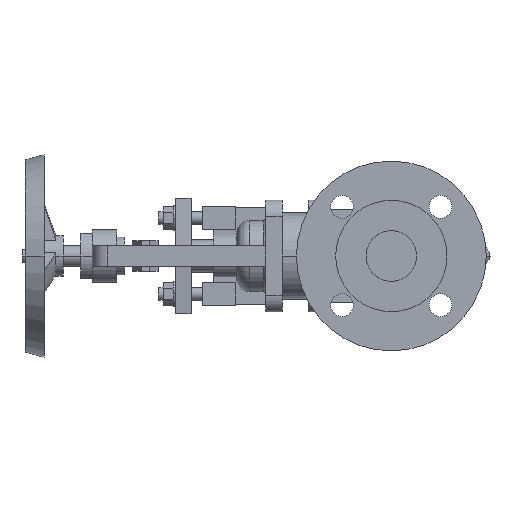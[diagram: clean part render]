
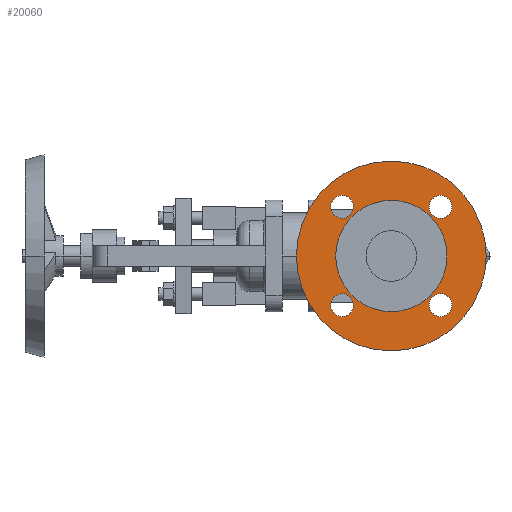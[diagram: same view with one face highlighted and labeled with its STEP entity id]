
A CAD part, left-side view. The second image highlights one B-rep face of the part: STEP entity #20060.
In plain terms, the highlighted planar face has unit normal (-1, 0, 0).
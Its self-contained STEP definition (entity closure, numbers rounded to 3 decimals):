
#3050=CARTESIAN_POINT('',(3.,-44.,0.));
#3060=VERTEX_POINT('',#3050);
#3090=CARTESIAN_POINT('',(3.,0.,0.));
#3100=DIRECTION('',(-1.,0.,0.));
#3110=DIRECTION('',(0.,1.,0.));
#3120=AXIS2_PLACEMENT_3D('',#3090,#3100,#3110);
#3130=CIRCLE('',#3120,44.);
#3140=CARTESIAN_POINT('',(3.,44.,0.));
#3150=VERTEX_POINT('',#3140);
#3160=EDGE_CURVE('',#3150,#3060,#3130,.T.);
#4560=CARTESIAN_POINT('',(3.,0.,75.));
#4570=VERTEX_POINT('',#4560);
#4730=CARTESIAN_POINT('',(3.,0.,-75.));
#4740=VERTEX_POINT('',#4730);
#4770=CARTESIAN_POINT('',(3.,0.,0.));
#4780=DIRECTION('',(1.,0.,0.));
#4790=DIRECTION('',(0.,0.,-1.));
#4800=AXIS2_PLACEMENT_3D('',#4770,#4780,#4790);
#4810=CIRCLE('',#4800,75.);
#4820=EDGE_CURVE('',#4570,#4740,#4810,.T.);
#5050=CARTESIAN_POINT('',(3.,38.891,-47.891));
#5060=VERTEX_POINT('',#5050);
#5090=CARTESIAN_POINT('',(3.,38.891,-38.891));
#5100=DIRECTION('',(1.,0.,0.));
#5110=DIRECTION('',(0.,0.,-1.));
#5120=AXIS2_PLACEMENT_3D('',#5090,#5100,#5110);
#5130=CIRCLE('',#5120,9.);
#5140=CARTESIAN_POINT('',(3.,38.891,-29.891));
#5150=VERTEX_POINT('',#5140);
#5160=EDGE_CURVE('',#5060,#5150,#5130,.T.);
#5540=CARTESIAN_POINT('',(3.,-38.891,-47.891));
#5550=VERTEX_POINT('',#5540);
#5580=CARTESIAN_POINT('',(3.,-38.891,-38.891));
#5590=DIRECTION('',(1.,0.,0.));
#5600=DIRECTION('',(0.,0.,-1.));
#5610=AXIS2_PLACEMENT_3D('',#5580,#5590,#5600);
#5620=CIRCLE('',#5610,9.);
#5630=CARTESIAN_POINT('',(3.,-38.891,-29.891));
#5640=VERTEX_POINT('',#5630);
#5650=EDGE_CURVE('',#5550,#5640,#5620,.T.);
#6030=CARTESIAN_POINT('',(3.,38.891,47.891));
#6040=VERTEX_POINT('',#6030);
#6200=CARTESIAN_POINT('',(3.,38.891,29.891));
#6210=VERTEX_POINT('',#6200);
#6240=CARTESIAN_POINT('',(3.,38.891,38.891));
#6250=DIRECTION('',(1.,0.,0.));
#6260=DIRECTION('',(0.,0.,-1.));
#6270=AXIS2_PLACEMENT_3D('',#6240,#6250,#6260);
#6280=CIRCLE('',#6270,9.);
#6290=EDGE_CURVE('',#6210,#6040,#6280,.T.);
#6520=CARTESIAN_POINT('',(3.,-38.891,29.891));
#6530=VERTEX_POINT('',#6520);
#6560=CARTESIAN_POINT('',(3.,-38.891,38.891));
#6570=DIRECTION('',(1.,0.,0.));
#6580=DIRECTION('',(0.,0.,-1.));
#6590=AXIS2_PLACEMENT_3D('',#6560,#6570,#6580);
#6600=CIRCLE('',#6590,9.);
#6610=CARTESIAN_POINT('',(3.,-38.891,47.891));
#6620=VERTEX_POINT('',#6610);
#6630=EDGE_CURVE('',#6530,#6620,#6600,.T.);
#19710=CARTESIAN_POINT('',(3.,0.,0.));
#19720=DIRECTION('',(1.,0.,0.));
#19730=DIRECTION('',(0.,0.,-1.));
#19740=AXIS2_PLACEMENT_3D('',#19710,#19720,#19730);
#19750=PLANE('',#19740);
#19760=EDGE_CURVE('',#6620,#6530,#6600,.T.);
#19770=ORIENTED_EDGE('',*,*,#19760,.T.);
#19780=ORIENTED_EDGE('',*,*,#6630,.T.);
#19790=EDGE_LOOP('',(#19780,#19770));
#19800=FACE_BOUND('',#19790,.T.);
#19810=EDGE_CURVE('',#6040,#6210,#6280,.T.);
#19820=ORIENTED_EDGE('',*,*,#19810,.T.);
#19830=ORIENTED_EDGE('',*,*,#6290,.T.);
#19840=EDGE_LOOP('',(#19830,#19820));
#19850=FACE_BOUND('',#19840,.T.);
#19860=EDGE_CURVE('',#5640,#5550,#5620,.T.);
#19870=ORIENTED_EDGE('',*,*,#19860,.T.);
#19880=ORIENTED_EDGE('',*,*,#5650,.T.);
#19890=EDGE_LOOP('',(#19880,#19870));
#19900=FACE_BOUND('',#19890,.T.);
#19910=EDGE_CURVE('',#5150,#5060,#5130,.T.);
#19920=ORIENTED_EDGE('',*,*,#19910,.T.);
#19930=ORIENTED_EDGE('',*,*,#5160,.T.);
#19940=EDGE_LOOP('',(#19930,#19920));
#19950=FACE_BOUND('',#19940,.T.);
#19960=EDGE_CURVE('',#4740,#4570,#4810,.T.);
#19970=ORIENTED_EDGE('',*,*,#19960,.F.);
#19980=ORIENTED_EDGE('',*,*,#4820,.F.);
#19990=EDGE_LOOP('',(#19980,#19970));
#20000=FACE_OUTER_BOUND('',#19990,.T.);
#20010=EDGE_CURVE('',#3060,#3150,#3130,.T.);
#20020=ORIENTED_EDGE('',*,*,#20010,.F.);
#20030=ORIENTED_EDGE('',*,*,#3160,.F.);
#20040=EDGE_LOOP('',(#20030,#20020));
#20050=FACE_BOUND('',#20040,.T.);
#20060=ADVANCED_FACE('',(#19800,#19850,#19900,#19950,#20000,#20050),
#19750,.F.);
